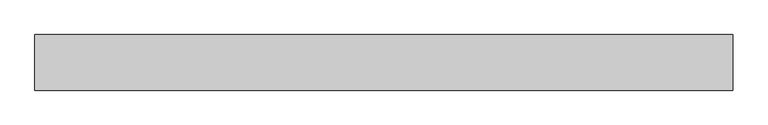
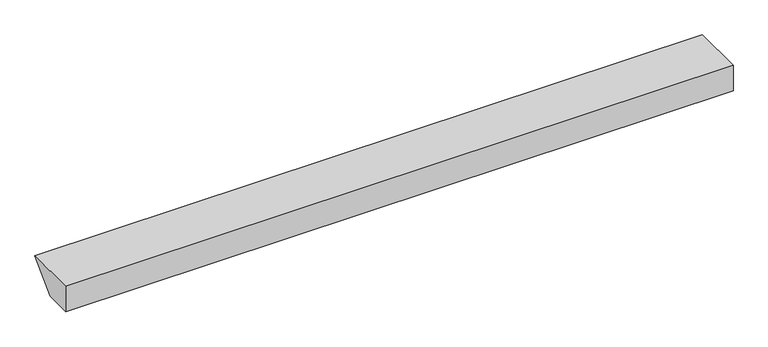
"""IFC4 building model written with IfcOpenShell, lengths in millimetres: proxy geometry, Gousset traverse bord droit : Gousset traverse bord droit."""

import ifcopenshell
import ifcopenshell.guid

model = None  # the IFC model being written
_history = None  # IfcOwnerHistory: only IFC2X3 demands one
_inside = {}  # id of a spatial element -> (the spatial element, [elements in it])
_under = {}  # id of a project, library or spatial element -> (it, [spatial elements below it])
_declared = {}  # id of a project -> (the project, [libraries it declares])
_typed = {}  # id of a type object -> (the type object, [elements of that type])
_made_of = {}  # id of a material, layer set ... -> (it, [elements and type objects made of it])


def new_model(schema):
    """Start an empty IFC model of exactly this schema.

    Asked for "IFC4X3", IfcOpenShell would pick the latest addendum, in which some entities
    have other attributes; the version numbers below select the first issue.
    IFC2X3 requires an IfcOwnerHistory on every rooted entity: one is made here for all.
    """
    global model, _history
    if schema == "IFC4X3":
        model = ifcopenshell.file(schema_version=(4, 3, 0, 0))
    else:
        model = ifcopenshell.file(schema=schema)
    _inside.clear()
    _under.clear()
    _declared.clear()
    _typed.clear()
    _made_of.clear()
    _history = None
    if model.schema == "IFC2X3":
        org = make("IfcOrganization", Name="unknown")
        user = make(
            "IfcPersonAndOrganization",
            ThePerson=make("IfcPerson", FamilyName="unknown"),
            TheOrganization=org,
        )
        app = make(
            "IfcApplication",
            ApplicationDeveloper=org,
            Version="unknown",
            ApplicationFullName="unknown",
            ApplicationIdentifier="unknown",
        )
        _history = make(
            "IfcOwnerHistory",
            OwningUser=user,
            OwningApplication=app,
            ChangeAction="ADDED",
            CreationDate=0,
        )
    return model


def make(cls, **values):
    """One entity of the class cls with the attributes given. An attribute that is None is left unset."""
    return model.create_entity(
        cls, **{name: value for name, value in values.items() if value is not None}
    )


def rooted(cls, **values):
    """An entity with a GlobalId (a new one), such as an element, a storey or a relation."""
    return make(cls, GlobalId=ifcopenshell.guid.new(), OwnerHistory=_history, **values)


def si_unit(unit_type, name, prefix=None):
    """IfcSIUnit, for example si_unit("LENGTHUNIT", "METRE", prefix="MILLI")."""
    return make("IfcSIUnit", UnitType=unit_type, Prefix=prefix, Name=name)


def assignment(units):
    """IfcUnitAssignment: the units of a project."""
    return None if units is None else make("IfcUnitAssignment", Units=units)


def point(xyz):
    """IfcCartesianPoint."""
    return None if xyz is None else make("IfcCartesianPoint", Coordinates=xyz)


def direction(xyz):
    """IfcDirection."""
    return None if xyz is None else make("IfcDirection", DirectionRatios=xyz)


def frame(location, z_axis=None, x_axis=None):
    """IfcAxis2Placement3D, a coordinate frame: its origin and axes. An axis left out is left unset."""
    return make(
        "IfcAxis2Placement3D",
        Location=point(location),
        Axis=direction(z_axis),
        RefDirection=direction(x_axis),
    )


def origin():
    """The frame at (0, 0, 0) with its axes left unset."""
    return frame((0.0, 0.0, 0.0))


def place(relative_to, where):
    """IfcLocalPlacement: puts the frame where relative to a parent placement (None: the world)."""
    return make(
        "IfcLocalPlacement", PlacementRelTo=relative_to, RelativePlacement=where
    )


def context(
    kind, dimensions, precision=None, world=None, true_north=None, identifier=None
):
    """IfcGeometricRepresentationContext, for example the 3D "Model" context."""
    return make(
        "IfcGeometricRepresentationContext",
        ContextIdentifier=identifier,
        ContextType=kind,
        CoordinateSpaceDimension=dimensions,
        Precision=precision,
        WorldCoordinateSystem=world,
        TrueNorth=true_north,
    )


def project(units=None, contexts=None):
    """IfcProject with its units and contexts."""
    return rooted(
        "IfcProject",
        Name="project",
        RepresentationContexts=contexts,
        UnitsInContext=assignment(units),
    )


def spatial(cls, under=None, at=None, **own):
    """A site, building, storey or space (cls), placed at a placement, below another one or the project."""
    s = rooted(cls, ObjectPlacement=at, **own)
    if under is not None:
        _under.setdefault(under.id(), (under, []))[1].append(s)
    return s


def polyline(points):
    """IfcPolyline through the points."""
    return make("IfcPolyline", Points=[point(p) for p in points])


def outline(outer, holes=None, kind="AREA"):
    """IfcArbitraryClosedProfileDef: a profile drawn as a closed curve; with holes, ...WithVoids."""
    if holes is None:
        return make("IfcArbitraryClosedProfileDef", ProfileType=kind, OuterCurve=outer)
    return make(
        "IfcArbitraryProfileDefWithVoids",
        ProfileType=kind,
        OuterCurve=outer,
        InnerCurves=holes,
    )


def extrude(swept, where, along, depth):
    """IfcExtrudedAreaSolid: the profile swept, set in the frame where, extruded along a direction by depth."""
    return make(
        "IfcExtrudedAreaSolid",
        SweptArea=swept,
        Position=where,
        ExtrudedDirection=direction(along),
        Depth=depth,
    )


def shape(context_of_items, identifier, shape_type, items):
    """IfcShapeRepresentation: the items that make up one representation, for example the "Body"."""
    return make(
        "IfcShapeRepresentation",
        ContextOfItems=context_of_items,
        RepresentationIdentifier=identifier,
        RepresentationType=shape_type,
        Items=items,
    )


def source(mapping_origin, context_of_items, identifier, shape_type, items):
    """IfcRepresentationMap: a shape defined once, which mapped items show again and again."""
    return make(
        "IfcRepresentationMap",
        MappingOrigin=mapping_origin,
        MappedRepresentation=shape(context_of_items, identifier, shape_type, items),
    )


def transform(
    local_origin,
    x_axis=None,
    y_axis=None,
    z_axis=None,
    scale=None,
    scale2=None,
    scale3=None,
    uniform=True,
):
    """IfcCartesianTransformationOperator3D, or its non-uniform kind. x_axis, y_axis, z_axis: its Axis1, 2, 3."""
    if uniform:
        return make(
            "IfcCartesianTransformationOperator3D",
            Axis1=direction(x_axis),
            Axis2=direction(y_axis),
            LocalOrigin=point(local_origin),
            Scale=scale,
            Axis3=direction(z_axis),
        )
    return make(
        "IfcCartesianTransformationOperator3DnonUniform",
        Axis1=direction(x_axis),
        Axis2=direction(y_axis),
        LocalOrigin=point(local_origin),
        Scale=scale,
        Axis3=direction(z_axis),
        Scale2=scale2,
        Scale3=scale3,
    )


def mapped(mapping_source, mapping_target):
    """IfcMappedItem: shows the shape of a source again, moved by a transform."""
    return make(
        "IfcMappedItem", MappingSource=mapping_source, MappingTarget=mapping_target
    )


def made_of(thing, what):
    """Note that an element or type object is made of a material, layer set ...; save() writes the relation."""
    if what is not None:
        _made_of.setdefault(what.id(), (what, []))[1].append(thing)
    return thing


def element(
    cls,
    number,
    at=None,
    inside=None,
    cuts=None,
    type_object=None,
    material=None,
    context=None,
    identifier="Body",
    shape_type=None,
    held_by="IfcProductDefinitionShape",
    body=None,
    shapes=None,
    **own,
):
    """One element of the class cls, such as IfcWall. Its Tag is "e" and its number.

    at: its placement. inside: the storey or other place that contains it. cuts: it is an
    opening in that element (IfcRelVoidsElement). A single representation is given by context,
    identifier, shape_type and body (its items); several are given by shapes. held_by: the class
    of the entity that holds the representations. save() writes the other relations.
    """
    e = rooted(cls, Tag="e%d" % number, ObjectPlacement=at, **own)
    if body is not None:
        shapes = [shape(context, identifier, shape_type, body)]
    if shapes is not None:
        e.Representation = make(held_by, Representations=shapes)
    if inside is not None:
        _inside.setdefault(inside.id(), (inside, []))[1].append(e)
    if cuts is not None:
        rooted(
            "IfcRelVoidsElement", RelatingBuildingElement=cuts, RelatedOpeningElement=e
        )
    if type_object is not None:
        _typed.setdefault(type_object.id(), (type_object, []))[1].append(e)
    return made_of(e, material)


def aggregate(whole, parts):
    """IfcRelAggregates: a whole, such as a stair, and the parts it consists of."""
    return rooted("IfcRelAggregates", RelatingObject=whole, RelatedObjects=parts)


def save(model, path):
    """Write the relations noted so far, then the file.

    IfcRelAggregates (storeys below a building ...), IfcRelContainedInSpatialStructure (elements
    in a storey), IfcRelDefinesByType, IfcRelAssociatesMaterial and IfcRelDeclares: one each for
    every whole, place, type object, material and project.
    """
    for whole, parts in _under.values():
        aggregate(whole, parts)
    for where, things in _inside.values():
        rooted(
            "IfcRelContainedInSpatialStructure",
            RelatedElements=things,
            RelatingStructure=where,
        )
    for kind, things in _typed.values():
        rooted("IfcRelDefinesByType", RelatedObjects=things, RelatingType=kind)
    for what, things in _made_of.values():
        rooted("IfcRelAssociatesMaterial", RelatedObjects=things, RelatingMaterial=what)
    for by, libraries in _declared.values():
        rooted("IfcRelDeclares", RelatingContext=by, RelatedDefinitions=libraries)
    model.write(path)


def generic_models_c98ec642(model_context):
    return source(origin(), model_context, "Body", "SweptSolid", [
        extrude(outline(polyline([(0.0, -350.0), (700.0, -350.0), (350.0, -700.0), (0.0, -700.0), (0.0, -350.0)])), frame((0.0, 0.0, 0.0), z_axis=(1.0, 0.0, 0.0), x_axis=(0.0, 1.0, 0.0)), (0.0, 0.0, 1.0), 8785.0),
    ])


if __name__ == "__main__":
    model = new_model("IFC4")
    model_context = context("Model", 3, world=origin())
    ifc_project = project(units=[si_unit("LENGTHUNIT", "METRE", prefix="MILLI")], contexts=[model_context])
    site = spatial("IfcSite", under=ifc_project)
    building = spatial("IfcBuilding", under=site)
    placement = place(None, origin())
    generic_models_shape = generic_models_c98ec642(model_context)
    element("IfcBuildingElementProxy", 1, Name="Gousset traverse bord droit : Gousset traverse bord droit", ObjectType="Gousset traverse bord droit : Gousset traverse bord droit", at=placement, inside=building, context=model_context, shape_type="MappedRepresentation", body=[
        mapped(generic_models_shape, transform((0.0, 0.0, 0.0), x_axis=(1.0, 0.0, 0.0), y_axis=(0.0, 1.0, 0.0), z_axis=(0.0, 0.0, 1.0))),
    ])
    save(model, "model.ifc")
